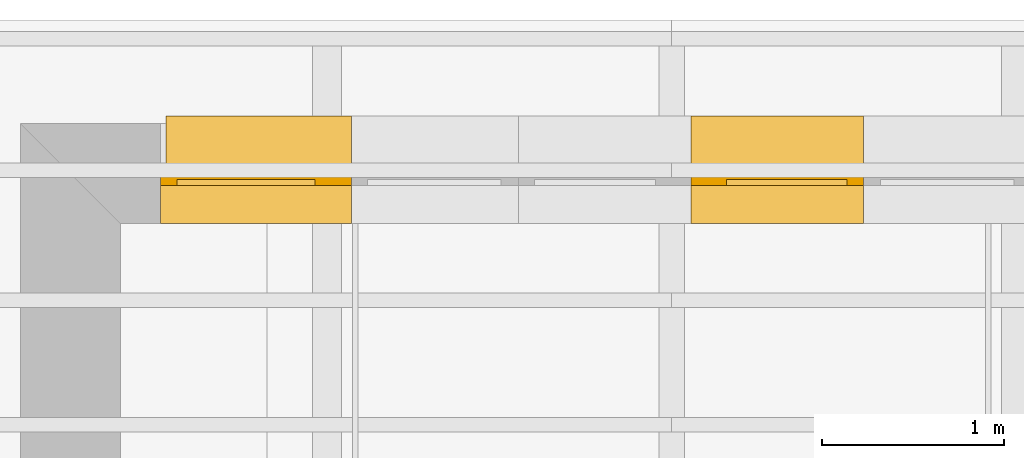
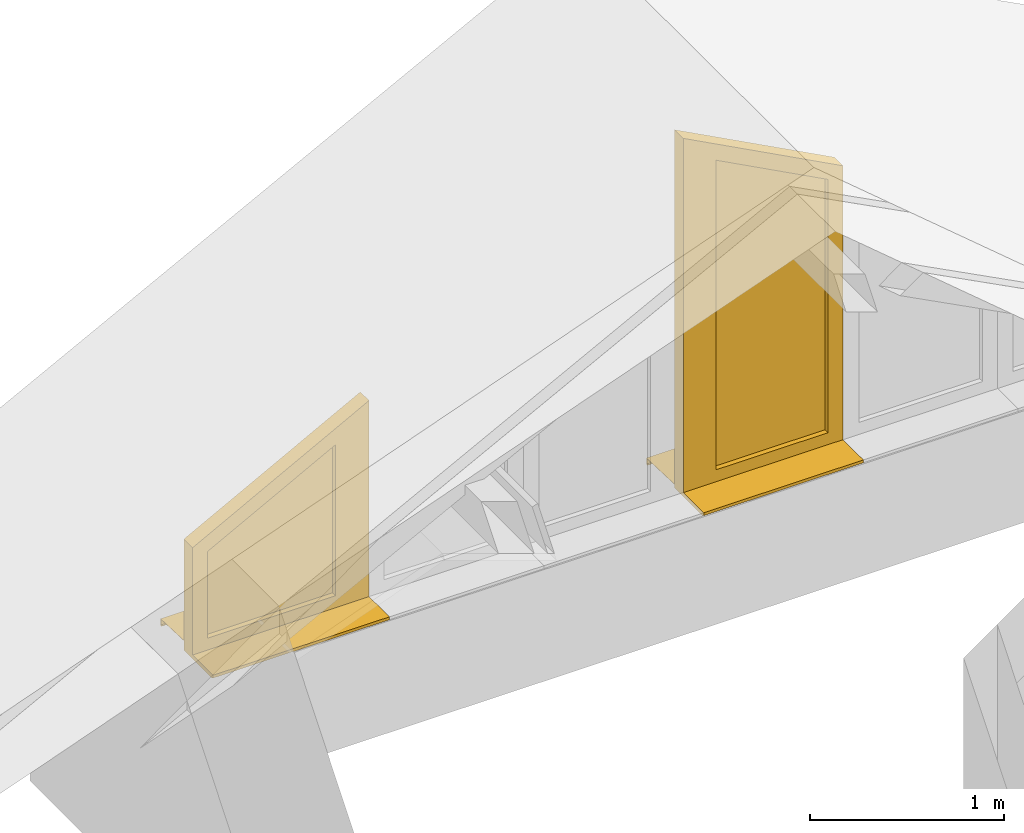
# One storey, part 16 of 18: 2 windows.
"""IFC2X3 building model written with IfcOpenShell, lengths in metres."""

import ifcopenshell
import ifcopenshell.guid

model = None  # the IFC model being written
_history = None  # IfcOwnerHistory: only IFC2X3 demands one
_inside = {}  # id of a spatial element -> (the spatial element, [elements in it])
_under = {}  # id of a project, library or spatial element -> (it, [spatial elements below it])
_declared = {}  # id of a project -> (the project, [libraries it declares])
_typed = {}  # id of a type object -> (the type object, [elements of that type])
_made_of = {}  # id of a material, layer set ... -> (it, [elements and type objects made of it])


def new_model(schema):
    """Start an empty IFC model of exactly this schema.

    Asked for "IFC4X3", IfcOpenShell would pick the latest addendum, in which some entities
    have other attributes; the version numbers below select the first issue.
    IFC2X3 requires an IfcOwnerHistory on every rooted entity: one is made here for all.
    """
    global model, _history
    if schema == "IFC4X3":
        model = ifcopenshell.file(schema_version=(4, 3, 0, 0))
    else:
        model = ifcopenshell.file(schema=schema)
    _inside.clear()
    _under.clear()
    _declared.clear()
    _typed.clear()
    _made_of.clear()
    _history = None
    if model.schema == "IFC2X3":
        org = make("IfcOrganization", Name="unknown")
        user = make(
            "IfcPersonAndOrganization",
            ThePerson=make("IfcPerson", FamilyName="unknown"),
            TheOrganization=org,
        )
        app = make(
            "IfcApplication",
            ApplicationDeveloper=org,
            Version="unknown",
            ApplicationFullName="unknown",
            ApplicationIdentifier="unknown",
        )
        _history = make(
            "IfcOwnerHistory",
            OwningUser=user,
            OwningApplication=app,
            ChangeAction="ADDED",
            CreationDate=0,
        )
    return model


def make(cls, **values):
    """One entity of the class cls with the attributes given. An attribute that is None is left unset."""
    return model.create_entity(
        cls, **{name: value for name, value in values.items() if value is not None}
    )


def entity(cls, *values):
    """Any entity or typed value of the class cls, its attributes in the order of the schema. None: left unset."""
    e = model.create_entity(cls)
    for i, value in enumerate(values):
        if value is not None:
            e[i] = value
    return e


def rooted(cls, **values):
    """An entity with a GlobalId (a new one), such as an element, a storey or a relation."""
    return make(cls, GlobalId=ifcopenshell.guid.new(), OwnerHistory=_history, **values)


def si_unit(unit_type, name, prefix=None):
    """IfcSIUnit, for example si_unit("LENGTHUNIT", "METRE", prefix="MILLI")."""
    return make("IfcSIUnit", UnitType=unit_type, Prefix=prefix, Name=name)


def converted_unit(unit_type, name, factor, base, dimensions=None, offset=None):
    """IfcConversionBasedUnit, such as the inch: factor (a typed value) times the base unit."""
    return make(
        "IfcConversionBasedUnit"
        if offset is None
        else "IfcConversionBasedUnitWithOffset",
        ConversionOffset=offset,
        Dimensions=None
        if dimensions is None
        else entity("IfcDimensionalExponents", *dimensions),
        UnitType=unit_type,
        Name=name,
        ConversionFactor=make(
            "IfcMeasureWithUnit", ValueComponent=factor, UnitComponent=base
        ),
    )


def derived_unit(unit_type, elements):
    """IfcDerivedUnit: a product of units, each with its exponent."""
    return make(
        "IfcDerivedUnit",
        Elements=[
            make("IfcDerivedUnitElement", Unit=unit, Exponent=power)
            for unit, power in elements
        ],
        UnitType=unit_type,
    )


def assignment(units):
    """IfcUnitAssignment: the units of a project."""
    return None if units is None else make("IfcUnitAssignment", Units=units)


def point(xyz):
    """IfcCartesianPoint."""
    return None if xyz is None else make("IfcCartesianPoint", Coordinates=xyz)


def direction(xyz):
    """IfcDirection."""
    return None if xyz is None else make("IfcDirection", DirectionRatios=xyz)


def frame(location, z_axis=None, x_axis=None):
    """IfcAxis2Placement3D, a coordinate frame: its origin and axes. An axis left out is left unset."""
    return make(
        "IfcAxis2Placement3D",
        Location=point(location),
        Axis=direction(z_axis),
        RefDirection=direction(x_axis),
    )


def origin():
    """The frame at (0, 0, 0) with its axes left unset."""
    return frame((0.0, 0.0, 0.0))


def place(relative_to, where):
    """IfcLocalPlacement: puts the frame where relative to a parent placement (None: the world)."""
    return make(
        "IfcLocalPlacement", PlacementRelTo=relative_to, RelativePlacement=where
    )


def context(
    kind, dimensions, precision=None, world=None, true_north=None, identifier=None
):
    """IfcGeometricRepresentationContext, for example the 3D "Model" context."""
    return make(
        "IfcGeometricRepresentationContext",
        ContextIdentifier=identifier,
        ContextType=kind,
        CoordinateSpaceDimension=dimensions,
        Precision=precision,
        WorldCoordinateSystem=world,
        TrueNorth=true_north,
    )


def subcontext(parent, identifier, kind, view, scale=None):
    """IfcGeometricRepresentationSubContext, for example "Body" below "Model"."""
    return make(
        "IfcGeometricRepresentationSubContext",
        ContextIdentifier=identifier,
        ContextType=kind,
        ParentContext=parent,
        TargetScale=scale,
        TargetView=view,
    )


def project(units=None, contexts=None):
    """IfcProject with its units and contexts."""
    return rooted(
        "IfcProject",
        Name="project",
        RepresentationContexts=contexts,
        UnitsInContext=assignment(units),
    )


def spatial(cls, under=None, at=None, **own):
    """A site, building, storey or space (cls), placed at a placement, below another one or the project."""
    s = rooted(cls, ObjectPlacement=at, **own)
    if under is not None:
        _under.setdefault(under.id(), (under, []))[1].append(s)
    return s


def polyline(points):
    """IfcPolyline through the points."""
    return make("IfcPolyline", Points=[point(p) for p in points])


def outline(outer, holes=None, kind="AREA"):
    """IfcArbitraryClosedProfileDef: a profile drawn as a closed curve; with holes, ...WithVoids."""
    if holes is None:
        return make("IfcArbitraryClosedProfileDef", ProfileType=kind, OuterCurve=outer)
    return make(
        "IfcArbitraryProfileDefWithVoids",
        ProfileType=kind,
        OuterCurve=outer,
        InnerCurves=holes,
    )


def extrude(swept, where, along, depth):
    """IfcExtrudedAreaSolid: the profile swept, set in the frame where, extruded along a direction by depth."""
    return make(
        "IfcExtrudedAreaSolid",
        SweptArea=swept,
        Position=where,
        ExtrudedDirection=direction(along),
        Depth=depth,
    )


def faces_of(points, faces, orient=None, outer=None):
    """IfcFace entities. A face is a list of loops; a loop is a list of indices into points, from 0.

    orient and outer hold one flag for each loop. By default every Orientation is true, the
    first loop of a face is its IfcFaceOuterBound and the others are IfcFaceBound.
    """
    made = []
    for i, loops in enumerate(faces):
        bounds = []
        for j, loop in enumerate(loops):
            is_outer = j == 0 if outer is None else outer[i][j]
            bounds.append(
                make(
                    "IfcFaceOuterBound" if is_outer else "IfcFaceBound",
                    Bound=make("IfcPolyLoop", Polygon=[points[k] for k in loop]),
                    Orientation=True if orient is None else orient[i][j],
                )
            )
        made.append(make("IfcFace", Bounds=bounds))
    return made


def faceted_brep(points, faces, orient=None, outer=None, voids=None):
    """IfcFacetedBrep: a solid bounded by flat faces; with voids (closed shells), ...WithVoids."""
    shared = [point(p) for p in points]
    hull = make("IfcClosedShell", CfsFaces=faces_of(shared, faces, orient, outer))
    if voids is None:
        return make("IfcFacetedBrep", Outer=hull)
    return make(
        "IfcFacetedBrepWithVoids",
        Outer=hull,
        Voids=[
            make(cls, CfsFaces=faces_of(shared, fs, o, b)) for cls, fs, o, b in voids
        ],
    )


def shape(context_of_items, identifier, shape_type, items):
    """IfcShapeRepresentation: the items that make up one representation, for example the "Body"."""
    return make(
        "IfcShapeRepresentation",
        ContextOfItems=context_of_items,
        RepresentationIdentifier=identifier,
        RepresentationType=shape_type,
        Items=items,
    )


def source(mapping_origin, context_of_items, identifier, shape_type, items):
    """IfcRepresentationMap: a shape defined once, which mapped items show again and again."""
    return make(
        "IfcRepresentationMap",
        MappingOrigin=mapping_origin,
        MappedRepresentation=shape(context_of_items, identifier, shape_type, items),
    )


def transform(
    local_origin,
    x_axis=None,
    y_axis=None,
    z_axis=None,
    scale=None,
    scale2=None,
    scale3=None,
    uniform=True,
):
    """IfcCartesianTransformationOperator3D, or its non-uniform kind. x_axis, y_axis, z_axis: its Axis1, 2, 3."""
    if uniform:
        return make(
            "IfcCartesianTransformationOperator3D",
            Axis1=direction(x_axis),
            Axis2=direction(y_axis),
            LocalOrigin=point(local_origin),
            Scale=scale,
            Axis3=direction(z_axis),
        )
    return make(
        "IfcCartesianTransformationOperator3DnonUniform",
        Axis1=direction(x_axis),
        Axis2=direction(y_axis),
        LocalOrigin=point(local_origin),
        Scale=scale,
        Axis3=direction(z_axis),
        Scale2=scale2,
        Scale3=scale3,
    )


def mapped(mapping_source, mapping_target):
    """IfcMappedItem: shows the shape of a source again, moved by a transform."""
    return make(
        "IfcMappedItem", MappingSource=mapping_source, MappingTarget=mapping_target
    )


def material(Name=None, Category=None):
    """IfcMaterial."""
    return make("IfcMaterial", Name=Name, Category=Category)


def material_list(materials):
    """IfcMaterialList."""
    return make("IfcMaterialList", Materials=materials)


def made_of(thing, what):
    """Note that an element or type object is made of a material, layer set ...; save() writes the relation."""
    if what is not None:
        _made_of.setdefault(what.id(), (what, []))[1].append(thing)
    return thing


def type_object(cls, material=None, **own):
    """A type object (cls), such as IfcWallType, which elements share."""
    return made_of(rooted(cls, **own), material)


def type_shapes(of_type, sources):
    """Give a type object the sources (RepresentationMaps) that its elements show as mapped items."""
    of_type.RepresentationMaps = sources


def element(
    cls,
    number,
    at=None,
    inside=None,
    cuts=None,
    type_object=None,
    material=None,
    context=None,
    identifier="Body",
    shape_type=None,
    held_by="IfcProductDefinitionShape",
    body=None,
    shapes=None,
    **own,
):
    """One element of the class cls, such as IfcWall. Its Tag is "e" and its number.

    at: its placement. inside: the storey or other place that contains it. cuts: it is an
    opening in that element (IfcRelVoidsElement). A single representation is given by context,
    identifier, shape_type and body (its items); several are given by shapes. held_by: the class
    of the entity that holds the representations. save() writes the other relations.
    """
    e = rooted(cls, Tag="e%d" % number, ObjectPlacement=at, **own)
    if body is not None:
        shapes = [shape(context, identifier, shape_type, body)]
    if shapes is not None:
        e.Representation = make(held_by, Representations=shapes)
    if inside is not None:
        _inside.setdefault(inside.id(), (inside, []))[1].append(e)
    if cuts is not None:
        rooted(
            "IfcRelVoidsElement", RelatingBuildingElement=cuts, RelatedOpeningElement=e
        )
    if type_object is not None:
        _typed.setdefault(type_object.id(), (type_object, []))[1].append(e)
    return made_of(e, material)


def aggregate(whole, parts):
    """IfcRelAggregates: a whole, such as a stair, and the parts it consists of."""
    return rooted("IfcRelAggregates", RelatingObject=whole, RelatedObjects=parts)


def save(model, path):
    """Write the relations noted so far, then the file.

    IfcRelAggregates (storeys below a building ...), IfcRelContainedInSpatialStructure (elements
    in a storey), IfcRelDefinesByType, IfcRelAssociatesMaterial and IfcRelDeclares: one each for
    every whole, place, type object, material and project.
    """
    for whole, parts in _under.values():
        aggregate(whole, parts)
    for where, things in _inside.values():
        rooted(
            "IfcRelContainedInSpatialStructure",
            RelatedElements=things,
            RelatingStructure=where,
        )
    for kind, things in _typed.values():
        rooted("IfcRelDefinesByType", RelatedObjects=things, RelatingType=kind)
    for what, things in _made_of.values():
        rooted("IfcRelAssociatesMaterial", RelatedObjects=things, RelatingMaterial=what)
    for by, libraries in _declared.values():
        rooted("IfcRelDeclares", RelatingContext=by, RelatedDefinitions=libraries)
    model.write(path)


model = new_model("IFC2X3")

# Units and contexts
model_context = context("Model", 3, precision=1e-05, world=origin(), true_north=direction((6.123233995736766e-17, 1.0)))
body_context = subcontext(model_context, "Body", "Model", "MODEL_VIEW")
ifc_project = project(units=[si_unit("LENGTHUNIT", "METRE"), si_unit("AREAUNIT", "SQUARE_METRE"), si_unit("VOLUMEUNIT", "CUBIC_METRE"), si_unit("POWERUNIT", "WATT"), derived_unit("USERDEFINED", [(si_unit("MASSUNIT", "GRAM", prefix="KILO"), 1), (si_unit("TIMEUNIT", "SECOND"), -3)]), derived_unit("THERMALRESISTANCEUNIT", [(si_unit("MASSUNIT", "GRAM", prefix="KILO"), -1), (si_unit("TIMEUNIT", "SECOND"), 3), (si_unit("THERMODYNAMICTEMPERATUREUNIT", "KELVIN"), 1)]), derived_unit("USERDEFINED", [(si_unit("MASSUNIT", "GRAM", prefix="KILO"), 1), (si_unit("TIMEUNIT", "SECOND"), -2), (si_unit("THERMODYNAMICTEMPERATUREUNIT", "KELVIN"), -1)]), derived_unit("THERMALTRANSMITTANCEUNIT", [(si_unit("MASSUNIT", "GRAM", prefix="KILO"), 1), (si_unit("TIMEUNIT", "SECOND"), -3), (si_unit("THERMODYNAMICTEMPERATUREUNIT", "KELVIN"), -1)]), converted_unit("PLANEANGLEUNIT", "DEGREE", entity("IfcPlaneAngleMeasure", 0.017453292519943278), si_unit("PLANEANGLEUNIT", "RADIAN"), dimensions=[0, 0, 0, 0, 0, 0, 0]), derived_unit("MOMENTOFINERTIAUNIT", [(si_unit("LENGTHUNIT", "METRE"), 4)])], contexts=[model_context])

# Site, building, storey
site_placement = place(None, origin())
site = spatial("IfcSite", under=ifc_project, at=site_placement, Name="Default", CompositionType="ELEMENT")
building_placement = place(site_placement, origin())
building = spatial("IfcBuilding", under=site, at=building_placement, CompositionType="ELEMENT")
storey_placement = place(building_placement, frame((0.0, 0.0, 5.4)))
storey = spatial("IfcBuildingStorey", under=building, at=storey_placement, Name="1. Obergeschoss", CompositionType="ELEMENT", Elevation=5.4)

# Windows
ifc_material_1 = material(Name="Holz - generisch 140-100-70")
ifc_material_2 = material(Name="Kunststoff - grau 70-70-70")
ifc_material_3 = material(Name="Glas - Isolierverglasung klar")
ifc_material_list = material_list([ifc_material_1, ifc_material_2, ifc_material_3])
window_style_1 = type_object("IfcWindowStyle", Name="FE Schräg 1 tlg - Fix:700 x 1050", ConstructionType="NOTDEFINED", OperationType="NOTDEFINED", ParameterTakesPrecedence=False, Sizeable=False, material=ifc_material_list)
shared_shape_1 = source(origin(), body_context, "Body", "SolidModel", [
    extrude(outline(polyline([(-0.014333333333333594, -0.07333333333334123), (0.0036666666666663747, -0.07333333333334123), (0.0036666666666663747, -0.06333333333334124), (0.010666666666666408, -0.06333333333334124), (0.010666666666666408, 0.1366666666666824), (-0.014333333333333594, 0.1366666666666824), (-0.014333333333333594, -0.07333333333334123)])), frame((0.0, 0.07333333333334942, 0.010666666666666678), z_axis=(1.0, 0.0, 0.0), x_axis=(0.0, 0.0, -1.0)), (0.0, 0.0, 1.0), 1.0499999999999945),
    extrude(outline(polyline([(-0.768721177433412, -0.5249999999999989), (0.4895737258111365, -0.5249999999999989), (0.48957372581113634, 0.5249999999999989), (-0.2104262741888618, 0.524999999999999), (-0.768721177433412, -0.5249999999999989)]), holes=[polyline([(-0.5604479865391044, -0.3249999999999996), (-0.15634881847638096, 0.43500000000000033), (0.3895737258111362, 0.43500000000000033), (0.3895737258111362, -0.3249999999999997), (-0.5604479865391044, -0.3249999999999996)])]), frame((0.5249999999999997, 0.21000000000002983, 0.4895737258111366), z_axis=(0.0, 1.0, 0.0), x_axis=(0.0, 0.0, -1.0)), (0.0, 0.0, 1.0), 0.08999999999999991),
    extrude(outline(polyline([(-0.5760356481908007, -0.37999999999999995), (0.37398606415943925, -0.37999999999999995), (0.3739860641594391, 0.38000000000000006), (-0.17193648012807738, 0.3799999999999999), (-0.5760356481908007, -0.37999999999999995)])), frame((0.46999999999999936, 0.24100000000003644, 0.4739860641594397), z_axis=(0.0, 1.0, 0.0), x_axis=(0.0, 0.0, -1.0)), (0.0, 0.0, 1.0), 0.043999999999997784),
    faceted_brep([(0.02999999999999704, 0.5920000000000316, 0.011185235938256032), (0.02999999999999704, 0.5700000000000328, 0.01200005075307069), (0.0299999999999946, 0.30200000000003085, 0.021925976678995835), (1.0500000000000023, 0.30200000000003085, 0.021925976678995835), (1.0500000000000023, 0.5700000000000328, 0.01200005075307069), (1.0500000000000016, 0.5920000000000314, 0.011185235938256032), (0.02999999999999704, 0.5920000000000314, -0.028814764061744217), (1.0500000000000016, 0.5920000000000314, -0.028814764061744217), (0.02999999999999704, 0.5800000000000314, -0.028814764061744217), (1.0500000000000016, 0.5800000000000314, -0.028814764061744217), (0.02999999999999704, 0.5800000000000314, -0.0268147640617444), (1.0500000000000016, 0.5800000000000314, -0.0268147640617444), (0.02999999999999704, 0.5900000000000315, -0.0268147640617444), (1.0500000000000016, 0.5900000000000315, -0.0268147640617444), (0.02999999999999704, 0.5900000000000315, 0.009259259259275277), (1.0500000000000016, 0.5900000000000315, 0.009259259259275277), (0.02999999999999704, 0.5700000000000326, 0.010000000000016), (1.0500000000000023, 0.5700000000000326, 0.010000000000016), (1.050000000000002, 0.30000000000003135, 0.02000000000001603), (0.0299999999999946, 0.3000000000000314, 0.02000000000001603), (0.0299999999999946, 0.30000000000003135, 0.040000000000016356), (1.050000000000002, 0.30000000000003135, 0.040000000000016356), (0.0299999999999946, 0.30200000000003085, 0.040000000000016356), (1.050000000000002, 0.30200000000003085, 0.040000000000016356)], [[[0, 1, 2, 3, 4, 5]], [[6, 0, 5, 7]], [[8, 6, 7, 9]], [[10, 8, 9, 11]], [[12, 10, 11, 13]], [[14, 12, 13, 15]], [[16, 14, 15, 17, 18, 19]], [[20, 19, 18, 21]], [[22, 20, 21, 23]], [[2, 22, 23, 3]], [[16, 1, 0, 6, 8, 10, 12, 14]], [[17, 4, 3, 23, 21, 18]], [[1, 16, 19, 20, 22, 2]], [[4, 17, 15, 13, 11, 9, 7, 5]]]),
])
type_shapes(window_style_1, [shared_shape_1])
window_1_placement = place(storey_placement, frame((30.30797000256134, 28.042272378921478, 0.702499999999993)))
element("IfcWindow", 1, at=window_1_placement, inside=storey, type_object=window_style_1, material=ifc_material_list, Name="FE Schräg 1 tlg - Fix:700 x 1050", ObjectType="FE Schräg 1 tlg - Fix:700 x 1050", OverallHeight=2.258715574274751, OverallWidth=1.1557961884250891, context=body_context, shape_type="MappedRepresentation", body=[
    mapped(shared_shape_1, transform((0.0, 0.0, 0.0), scale=1.0)),
])
window_style_2 = type_object("IfcWindowStyle", Name="FE Schräg 1 tlg - Fix:950 x 1747", ConstructionType="NOTDEFINED", OperationType="NOTDEFINED", ParameterTakesPrecedence=False, Sizeable=False, material=ifc_material_list)
shared_shape_2 = source(origin(), body_context, "Body", "SolidModel", [
    extrude(outline(polyline([(-0.07333333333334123, -0.014333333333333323), (0.1366666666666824, -0.014333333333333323), (0.1366666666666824, 0.010666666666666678), (-0.06333333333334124, 0.010666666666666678), (-0.06333333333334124, 0.0036666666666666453), (-0.07333333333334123, 0.0036666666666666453), (-0.07333333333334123, -0.014333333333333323)])), frame((0.9500000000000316, 0.6433333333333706, 0.010666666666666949), z_axis=(-1.0, 0.0, 0.0), x_axis=(0.0, 1.0, 0.0)), (0.0, 0.0, 1.0), 0.9499999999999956),
    extrude(outline(polyline([(-1.2525929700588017, -0.4749999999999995), (1.0000309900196, -0.4749999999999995), (1.0000309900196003, 0.4749999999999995), (-0.7474690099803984, 0.47499999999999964), (-1.2525929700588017, -0.4749999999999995)]), holes=[polyline([(-1.0469783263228, -0.27999999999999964), (-0.6933915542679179, 0.3850000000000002), (0.9000309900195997, 0.38500000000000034), (0.9000309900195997, -0.27999999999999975), (-1.0469783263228, -0.27999999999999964)])]), frame((0.47500000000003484, 0.8700000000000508, 1.0000309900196), z_axis=(0.0, -1.0, 0.0), x_axis=(0.0, 0.0, -1.0)), (0.0, 0.0, 1.0), 0.08999999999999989),
    extrude(outline(polyline([(-1.061901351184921, -0.3325), (0.8851079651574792, -0.3325), (0.8851079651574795, 0.3325), (-0.7083145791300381, 0.3325), (-1.061901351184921, -0.3325)])), frame((0.5275000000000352, 0.8550000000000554, 0.9851079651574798), z_axis=(0.0, -1.0, 0.0), x_axis=(0.0, 0.0, -1.0)), (0.0, 0.0, 1.0), 0.043999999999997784),
    faceted_brep([(0.9500000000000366, 1.1620000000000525, 0.011185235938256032), (0.0, 1.1620000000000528, 0.011185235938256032), (0.0, 1.1400000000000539, 0.01200005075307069), (0.0, 0.872000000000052, 0.021925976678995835), (0.950000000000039, 0.872000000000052, 0.021925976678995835), (0.9500000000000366, 1.1400000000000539, 0.01200005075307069), (0.9500000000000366, 1.1620000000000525, -0.028814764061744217), (0.0, 1.1620000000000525, -0.028814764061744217), (0.9500000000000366, 1.1500000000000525, -0.028814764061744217), (0.0, 1.1500000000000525, -0.028814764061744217), (0.9500000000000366, 1.1500000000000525, -0.0268147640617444), (0.0, 1.1500000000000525, -0.0268147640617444), (0.9500000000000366, 1.1600000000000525, -0.0268147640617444), (0.0, 1.1600000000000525, -0.0268147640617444), (0.9500000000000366, 1.1600000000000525, 0.009259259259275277), (0.0, 1.1600000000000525, 0.009259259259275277), (0.9500000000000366, 1.1400000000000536, 0.010000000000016), (0.9500000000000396, 0.8700000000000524, 0.02000000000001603), (0.0, 0.8700000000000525, 0.02000000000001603), (0.0, 1.1400000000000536, 0.010000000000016), (0.9500000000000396, 0.8700000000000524, 0.040000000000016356), (0.0, 0.8700000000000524, 0.040000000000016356), (0.9500000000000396, 0.872000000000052, 0.040000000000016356), (0.0, 0.872000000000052, 0.040000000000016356)], [[[0, 1, 2, 3, 4, 5]], [[6, 7, 1, 0]], [[8, 9, 7, 6]], [[10, 11, 9, 8]], [[12, 13, 11, 10]], [[14, 15, 13, 12]], [[16, 17, 18, 19, 15, 14]], [[20, 21, 18, 17]], [[22, 23, 21, 20]], [[4, 3, 23, 22]], [[16, 14, 12, 10, 8, 6, 0, 5]], [[19, 18, 21, 23, 3, 2]], [[5, 4, 22, 20, 17, 16]], [[2, 1, 7, 9, 11, 13, 15, 19]]]),
])
type_shapes(window_style_2, [shared_shape_2])
window_2_placement = place(storey_placement, frame((33.22797000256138, 27.472272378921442, 0.702472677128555)))
element("IfcWindow", 2, at=window_2_placement, inside=storey, type_object=window_style_2, material=ifc_material_list, Name="FE Schräg 1 tlg - Fix:950 x 1747", ObjectType="FE Schräg 1 tlg - Fix:950 x 1747", OverallHeight=3.1026239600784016, OverallWidth=1.0557961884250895, context=body_context, shape_type="MappedRepresentation", body=[
    mapped(shared_shape_2, transform((0.0, 0.0, 0.0), scale=1.0)),
])

save(model, "model.ifc")
